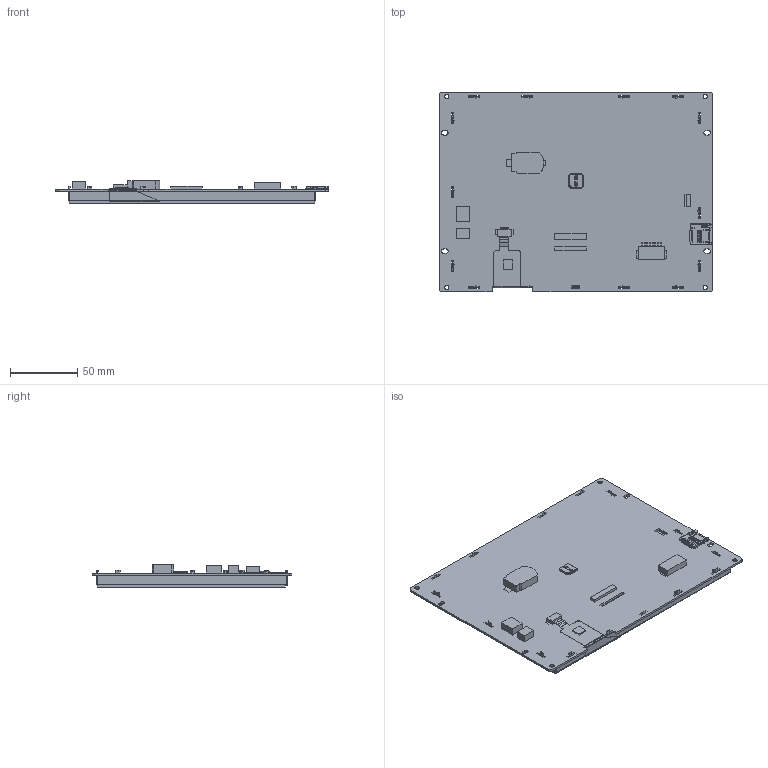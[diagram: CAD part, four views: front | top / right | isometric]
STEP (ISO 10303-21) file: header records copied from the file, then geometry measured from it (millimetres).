
FILE_DESCRIPTION(/* description */ (''),/* implementation_level */ '2;1');
FILE_NAME(/* name */ '',/* time_stamp */ '2023-04-11T10:26:03+08:00',/* author */ (''),/* organization */ (''),/* preprocessor_version */ 'ST-DEVELOPER v11',/* originating_system */ 'SIEMENS PLM Software NX 7.5',/* authorisation */ '');
FILE_SCHEMA (('AP203_CONFIGURATION_CONTROLLED_3D_DESIGN_OF_MECHANICAL_PARTS_AND_ASSEMBLIES_MIM_LF'));
Products named in the file (1): 3D-SDWb080YY97AC_stp
Bounding box: 203.02 x 148.8 x 16.42 mm (x, y, z)
Volume: 97743.3 mm3; surface area: 143807.8 mm2
Topology: 17 solids, 17 shells, 2426 faces, 7007 edges, 4605 vertices
Faces by surface type: plane 1945, cylinder 473, bspline 7, cone 1
Full cylindrical faces by diameter (mm): 3.2 x4
Entity records: 81308 total; most frequent: CARTESIAN_POINT 14470, ORIENTED_EDGE 14006, DIRECTION 12697, EDGE_CURVE 7003, LINE 6021, VECTOR 6021, VERTEX_POINT 4605, AXIS2_PLACEMENT_3D 3338
